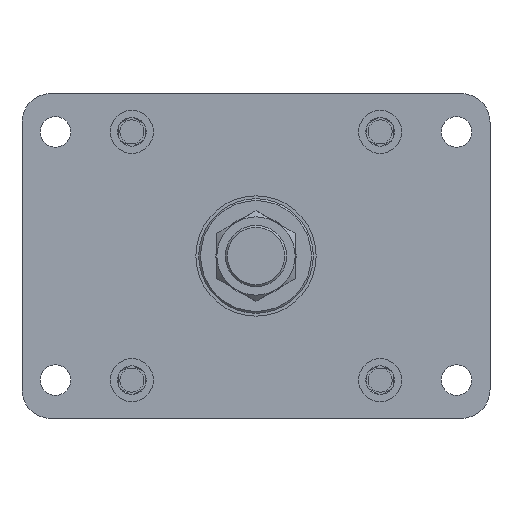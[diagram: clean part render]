
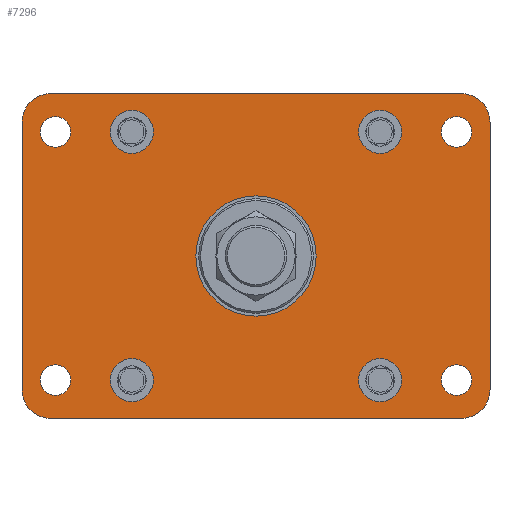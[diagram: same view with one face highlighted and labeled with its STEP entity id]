
A CAD part, front view. The second image highlights one B-rep face of the part: STEP entity #7296.
In plain terms, the highlighted planar face has unit normal (0, -1, 0).
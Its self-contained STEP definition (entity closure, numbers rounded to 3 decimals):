
#604=LINE('',#10930,#1010);
#608=LINE('',#10939,#1014);
#612=LINE('',#10948,#1018);
#618=LINE('',#10962,#1024);
#1010=VECTOR('',#9319,1000.);
#1014=VECTOR('',#9325,1000.);
#1018=VECTOR('',#9331,1000.);
#1024=VECTOR('',#9339,1000.);
#2248=ORIENTED_EDGE('',*,*,#3132,.T.);
#2249=ORIENTED_EDGE('',*,*,#3133,.T.);
#2250=ORIENTED_EDGE('',*,*,#3134,.T.);
#2251=ORIENTED_EDGE('',*,*,#3135,.T.);
#2252=ORIENTED_EDGE('',*,*,#3136,.T.);
#2253=ORIENTED_EDGE('',*,*,#3137,.T.);
#2254=ORIENTED_EDGE('',*,*,#3138,.T.);
#2255=ORIENTED_EDGE('',*,*,#3139,.T.);
#2256=ORIENTED_EDGE('',*,*,#3140,.T.);
#2257=ORIENTED_EDGE('',*,*,#3130,.T.);
#2258=ORIENTED_EDGE('',*,*,#3141,.T.);
#2259=ORIENTED_EDGE('',*,*,#3116,.T.);
#2260=ORIENTED_EDGE('',*,*,#3142,.T.);
#2261=ORIENTED_EDGE('',*,*,#3120,.T.);
#2262=ORIENTED_EDGE('',*,*,#3143,.T.);
#2263=ORIENTED_EDGE('',*,*,#3124,.T.);
#2264=ORIENTED_EDGE('',*,*,#3144,.T.);
#3116=EDGE_CURVE('',#3671,#3672,#604,.T.);
#3120=EDGE_CURVE('',#3675,#3676,#608,.T.);
#3124=EDGE_CURVE('',#3679,#3680,#612,.T.);
#3130=EDGE_CURVE('',#3686,#3685,#618,.T.);
#3132=EDGE_CURVE('',#3687,#3687,#4012,.F.);
#3133=EDGE_CURVE('',#3688,#3688,#4013,.F.);
#3134=EDGE_CURVE('',#3689,#3689,#4014,.F.);
#3135=EDGE_CURVE('',#3690,#3690,#4015,.F.);
#3136=EDGE_CURVE('',#3691,#3691,#4016,.F.);
#3137=EDGE_CURVE('',#3692,#3692,#4017,.F.);
#3138=EDGE_CURVE('',#3693,#3693,#4018,.F.);
#3139=EDGE_CURVE('',#3694,#3694,#4019,.F.);
#3140=EDGE_CURVE('',#3695,#3695,#4020,.F.);
#3141=EDGE_CURVE('',#3685,#3671,#4021,.T.);
#3142=EDGE_CURVE('',#3672,#3675,#4022,.T.);
#3143=EDGE_CURVE('',#3676,#3679,#4023,.T.);
#3144=EDGE_CURVE('',#3680,#3686,#4024,.T.);
#3671=VERTEX_POINT('',#10931);
#3672=VERTEX_POINT('',#10932);
#3675=VERTEX_POINT('',#10940);
#3676=VERTEX_POINT('',#10941);
#3679=VERTEX_POINT('',#10949);
#3680=VERTEX_POINT('',#10950);
#3685=VERTEX_POINT('',#10961);
#3686=VERTEX_POINT('',#10963);
#3687=VERTEX_POINT('',#10967);
#3688=VERTEX_POINT('',#10969);
#3689=VERTEX_POINT('',#10971);
#3690=VERTEX_POINT('',#10973);
#3691=VERTEX_POINT('',#10975);
#3692=VERTEX_POINT('',#10977);
#3693=VERTEX_POINT('',#10979);
#3694=VERTEX_POINT('',#10981);
#3695=VERTEX_POINT('',#10983);
#4012=CIRCLE('',#7879,31.5);
#4013=CIRCLE('',#7880,11.25);
#4014=CIRCLE('',#7881,11.25);
#4015=CIRCLE('',#7882,11.25);
#4016=CIRCLE('',#7883,11.25);
#4017=CIRCLE('',#7884,8.);
#4018=CIRCLE('',#7885,8.);
#4019=CIRCLE('',#7886,8.);
#4020=CIRCLE('',#7887,8.);
#4021=CIRCLE('',#7888,15.);
#4022=CIRCLE('',#7889,15.);
#4023=CIRCLE('',#7890,15.);
#4024=CIRCLE('',#7891,15.);
#4385=EDGE_LOOP('',(#2248));
#4386=EDGE_LOOP('',(#2249));
#4387=EDGE_LOOP('',(#2250));
#4388=EDGE_LOOP('',(#2251));
#4389=EDGE_LOOP('',(#2252));
#4390=EDGE_LOOP('',(#2253));
#4391=EDGE_LOOP('',(#2254));
#4392=EDGE_LOOP('',(#2255));
#4393=EDGE_LOOP('',(#2256));
#4394=EDGE_LOOP('',(#2257,#2258,#2259,#2260,#2261,#2262,#2263,#2264));
#4829=FACE_BOUND('',#4385,.T.);
#4830=FACE_BOUND('',#4386,.T.);
#4831=FACE_BOUND('',#4387,.T.);
#4832=FACE_BOUND('',#4388,.T.);
#4833=FACE_BOUND('',#4389,.T.);
#4834=FACE_BOUND('',#4390,.T.);
#4835=FACE_BOUND('',#4391,.T.);
#4836=FACE_BOUND('',#4392,.T.);
#4837=FACE_BOUND('',#4393,.T.);
#4838=FACE_BOUND('',#4394,.T.);
#5090=PLANE('',#7878);
#7296=ADVANCED_FACE('',(#4829,#4830,#4831,#4832,#4833,#4834,#4835,#4836,
#4837,#4838),#5090,.T.);
#7878=AXIS2_PLACEMENT_3D('',#10965,#9341,#9342);
#7879=AXIS2_PLACEMENT_3D('',#10966,#9343,#9344);
#7880=AXIS2_PLACEMENT_3D('',#10968,#9345,#9346);
#7881=AXIS2_PLACEMENT_3D('',#10970,#9347,#9348);
#7882=AXIS2_PLACEMENT_3D('',#10972,#9349,#9350);
#7883=AXIS2_PLACEMENT_3D('',#10974,#9351,#9352);
#7884=AXIS2_PLACEMENT_3D('',#10976,#9353,#9354);
#7885=AXIS2_PLACEMENT_3D('',#10978,#9355,#9356);
#7886=AXIS2_PLACEMENT_3D('',#10980,#9357,#9358);
#7887=AXIS2_PLACEMENT_3D('',#10982,#9359,#9360);
#7888=AXIS2_PLACEMENT_3D('',#10984,#9361,#9362);
#7889=AXIS2_PLACEMENT_3D('',#10985,#9363,#9364);
#7890=AXIS2_PLACEMENT_3D('',#10986,#9365,#9366);
#7891=AXIS2_PLACEMENT_3D('',#10987,#9367,#9368);
#9319=DIRECTION('',(0.,0.,-1.));
#9325=DIRECTION('',(1.,0.,0.));
#9331=DIRECTION('',(0.,0.,1.));
#9339=DIRECTION('',(-1.,0.,0.));
#9341=DIRECTION('',(0.,-1.,0.));
#9342=DIRECTION('',(0.,0.,-1.));
#9343=DIRECTION('',(0.,-1.,0.));
#9344=DIRECTION('',(0.,0.,-1.));
#9345=DIRECTION('',(0.,-1.,0.));
#9346=DIRECTION('',(0.,0.,-1.));
#9347=DIRECTION('',(0.,-1.,0.));
#9348=DIRECTION('',(0.,0.,-1.));
#9349=DIRECTION('',(0.,-1.,0.));
#9350=DIRECTION('',(0.,0.,-1.));
#9351=DIRECTION('',(0.,-1.,0.));
#9352=DIRECTION('',(0.,0.,-1.));
#9353=DIRECTION('',(0.,-1.,0.));
#9354=DIRECTION('',(0.,0.,-1.));
#9355=DIRECTION('',(0.,-1.,0.));
#9356=DIRECTION('',(0.,0.,-1.));
#9357=DIRECTION('',(0.,-1.,0.));
#9358=DIRECTION('',(0.,0.,-1.));
#9359=DIRECTION('',(0.,-1.,0.));
#9360=DIRECTION('',(0.,0.,-1.));
#9361=DIRECTION('',(0.,-1.,0.));
#9362=DIRECTION('',(0.,0.,-1.));
#9363=DIRECTION('',(0.,-1.,0.));
#9364=DIRECTION('',(0.,0.,-1.));
#9365=DIRECTION('',(0.,-1.,0.));
#9366=DIRECTION('',(0.,0.,-1.));
#9367=DIRECTION('',(0.,-1.,0.));
#9368=DIRECTION('',(0.,0.,-1.));
#10930=CARTESIAN_POINT('',(-122.5,-24.,28.));
#10931=CARTESIAN_POINT('',(-122.5,-24.,70.));
#10932=CARTESIAN_POINT('',(-122.5,-24.,-70.));
#10939=CARTESIAN_POINT('',(-43.,-24.,-85.));
#10940=CARTESIAN_POINT('',(-107.5,-24.,-85.));
#10941=CARTESIAN_POINT('',(107.5,-24.,-85.));
#10948=CARTESIAN_POINT('',(122.5,-24.,-28.));
#10949=CARTESIAN_POINT('',(122.5,-24.,-70.));
#10950=CARTESIAN_POINT('',(122.5,-24.,70.));
#10961=CARTESIAN_POINT('',(-107.5,-24.,85.));
#10962=CARTESIAN_POINT('',(43.,-24.,85.));
#10963=CARTESIAN_POINT('',(107.5,-24.,85.));
#10965=CARTESIAN_POINT('',(0.,-24.,0.));
#10966=CARTESIAN_POINT('',(0.,-24.,0.));
#10967=CARTESIAN_POINT('',(0.,-24.,-31.5));
#10968=CARTESIAN_POINT('',(-65.,-24.,-65.));
#10969=CARTESIAN_POINT('',(-65.,-24.,-76.25));
#10970=CARTESIAN_POINT('',(65.,-24.,-65.));
#10971=CARTESIAN_POINT('',(65.,-24.,-76.25));
#10972=CARTESIAN_POINT('',(65.,-24.,65.));
#10973=CARTESIAN_POINT('',(65.,-24.,53.75));
#10974=CARTESIAN_POINT('',(-65.,-24.,65.));
#10975=CARTESIAN_POINT('',(-65.,-24.,53.75));
#10976=CARTESIAN_POINT('',(105.,-24.,-65.));
#10977=CARTESIAN_POINT('',(105.,-24.,-73.));
#10978=CARTESIAN_POINT('',(-105.,-24.,-65.));
#10979=CARTESIAN_POINT('',(-105.,-24.,-73.));
#10980=CARTESIAN_POINT('',(-105.,-24.,65.));
#10981=CARTESIAN_POINT('',(-105.,-24.,57.));
#10982=CARTESIAN_POINT('',(105.,-24.,65.));
#10983=CARTESIAN_POINT('',(105.,-24.,57.));
#10984=CARTESIAN_POINT('',(-107.5,-24.,70.));
#10985=CARTESIAN_POINT('',(-107.5,-24.,-70.));
#10986=CARTESIAN_POINT('',(107.5,-24.,-70.));
#10987=CARTESIAN_POINT('',(107.5,-24.,70.));
